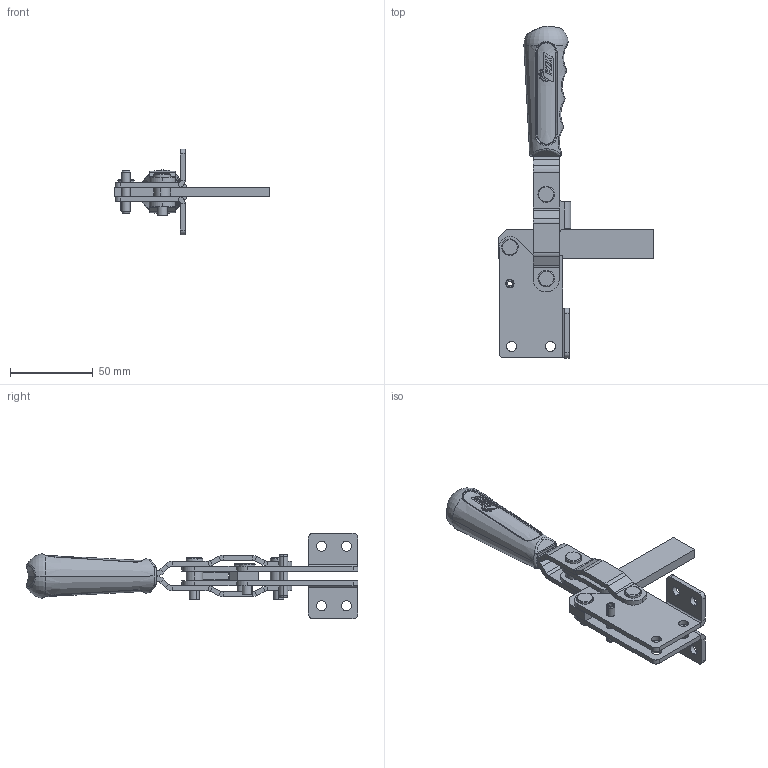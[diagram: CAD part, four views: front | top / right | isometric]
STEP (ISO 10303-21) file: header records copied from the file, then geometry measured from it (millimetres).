
FILE_DESCRIPTION (( 'STEP AP214' ), '1' );
FILE_NAME ('202_Y.STEP', '2024-09-09T16:28:35', ( '' ), ( '' ), 'SwSTEP 2.0', 'SolidWorks 2023', '' );
FILE_SCHEMA (( 'AUTOMOTIVE_DESIGN' ));
Length unit declared in the file: millimetre
Products named in the file (12): 202_Y; FZK_202_B_02_00; TTMK_01_00; spring pin slotted_hd_iso_Spring Pin ISO 8752 - 5 x 26 - St; FZK_202_B_07_00; FZK_202_B_06_00_202 B-07; FZK_202_Y_02_00; FZK_202_B_02A_00; FZK_202_B_03_00; FZK_202_B_05_00_202 B-06; FZK_202_Y_01_00; FZK_202_B_04_00
Assembly tree (15 placements, depth 3):
  202_Y
    FZK_202_B_02_00
      FZK_202_B_02A_00  x2
    TTMK_01_00
    FZK_202_B_03_00
    FZK_202_B_04_00
    FZK_202_Y_01_00
    FZK_202_Y_02_00
    FZK_202_B_05_00_202 B-06  x2
    FZK_202_B_06_00_202 B-07  x2
    FZK_202_B_07_00  x2
    spring pin slotted_hd_iso_Spring Pin ISO 8752 - 5 x 26 - St
Bounding box: 94 x 200.84 x 52 mm (x, y, z)
Volume: 73837.6 mm3; surface area: 46598.7 mm2
Topology: 14 solids, 14 shells, 632 faces, 1536 edges, 939 vertices
Faces by surface type: bspline 211, cylinder 176, plane 168, cone 51, sphere 20, torus 6
Entity records: 28575 total; most frequent: CARTESIAN_POINT 17300, ORIENTED_EDGE 2590, DIRECTION 1721, EDGE_CURVE 1295, VERTEX_POINT 809, AXIS2_PLACEMENT_3D 688, EDGE_LOOP 586, B_SPLINE_CURVE_WITH_KNOTS 578
